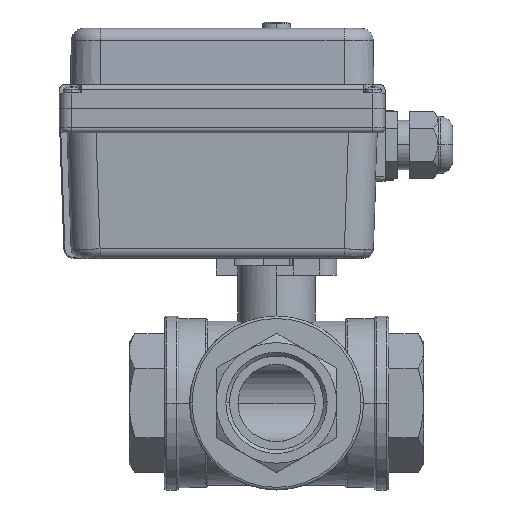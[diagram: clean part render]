
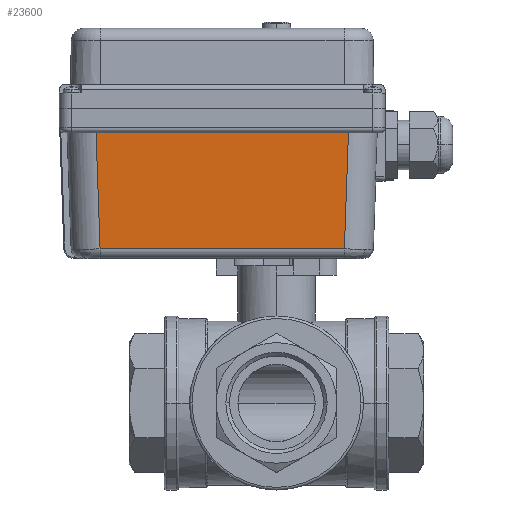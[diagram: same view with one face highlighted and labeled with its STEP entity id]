
A CAD part, top view. The second image highlights one B-rep face of the part: STEP entity #23600.
In plain terms, the highlighted planar face has unit normal (0, -0.035, 0.999).
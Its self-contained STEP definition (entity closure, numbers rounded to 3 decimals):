
#360 = EDGE_LOOP ( 'NONE', ( #24878, #24879, #24880, #24881 ) ) ;
#3243 = LINE ( 'NONE', #3244, #15539 ) ;
#3244 = CARTESIAN_POINT ( 'NONE',  ( 62.5, -10., 42.316 ) ) ;
#3245 = DIRECTION ( 'NONE',  ( -1., 0., 0. ) ) ;
#3347 = LINE ( 'NONE', #3348, #15579 ) ;
#3348 = CARTESIAN_POINT ( 'NONE',  ( -50.37, -65.937, 40.363 ) ) ;
#3349 = DIRECTION ( 'NONE',  ( 0.035, -0.999, -0.035 ) ) ;
#3350 = LINE ( 'NONE', #3351, #15580 ) ;
#3351 = CARTESIAN_POINT ( 'NONE',  ( 62.5, -58.14, 40.635 ) ) ;
#3352 = DIRECTION ( 'NONE',  ( 1., 0., 0. ) ) ;
#3353 = LINE ( 'NONE', #3354, #15581 ) ;
#3354 = CARTESIAN_POINT ( 'NONE',  ( 50.522, -61.582, 40.515 ) ) ;
#3355 = DIRECTION ( 'NONE',  ( 0.035, 0.999, 0.035 ) ) ;
#6441 = PLANE ( 'NONE',  #15292 ) ;
#6443 = CARTESIAN_POINT ( 'NONE',  ( 62.5, -62., 40.5 ) ) ;
#6447 = FACE_OUTER_BOUND ( 'NONE', #360, .T. ) ;
#6449 = DIRECTION ( 'NONE',  ( 0., -0.035, 0.999 ) ) ;
#6450 = DIRECTION ( 'NONE',  ( 0., -0.999, -0.035 ) ) ;
#10592 = CARTESIAN_POINT ( 'NONE',  ( 50.642, -58.14, 40.635 ) ) ;
#15292 = AXIS2_PLACEMENT_3D ( 'NONE', #6443, #6449, #6450 ) ;
#15539 = VECTOR ( 'NONE', #3245, 1000. ) ;
#15579 = VECTOR ( 'NONE', #3349, 1000. ) ;
#15580 = VECTOR ( 'NONE', #3352, 1000. ) ;
#15581 = VECTOR ( 'NONE', #3355, 1000. ) ;
#16199 = VERTEX_POINT ( 'NONE', #22385 ) ;
#16212 = VERTEX_POINT ( 'NONE', #22398 ) ;
#16225 = VERTEX_POINT ( 'NONE', #22411 ) ;
#20824 = VERTEX_POINT ( 'NONE', #10592 ) ;
#22385 = CARTESIAN_POINT ( 'NONE',  ( -50.642, -58.14, 40.635 ) ) ;
#22398 = CARTESIAN_POINT ( 'NONE',  ( -52.323, -10., 42.316 ) ) ;
#22411 = CARTESIAN_POINT ( 'NONE',  ( 52.323, -10., 42.316 ) ) ;
#23600 = ADVANCED_FACE ( 'NONE', ( #6447 ), #6441, .T. ) ;
#24878 = ORIENTED_EDGE ( 'NONE', *, *, #26090, .T. ) ;
#24879 = ORIENTED_EDGE ( 'NONE', *, *, #26091, .T. ) ;
#24880 = ORIENTED_EDGE ( 'NONE', *, *, #26092, .T. ) ;
#24881 = ORIENTED_EDGE ( 'NONE', *, *, #26056, .T. ) ;
#26056 = EDGE_CURVE ( 'NONE', #16225, #16212, #3243, .T. ) ;
#26090 = EDGE_CURVE ( 'NONE', #16212, #16199, #3347, .T. ) ;
#26091 = EDGE_CURVE ( 'NONE', #16199, #20824, #3350, .T. ) ;
#26092 = EDGE_CURVE ( 'NONE', #20824, #16225, #3353, .T. ) ;
